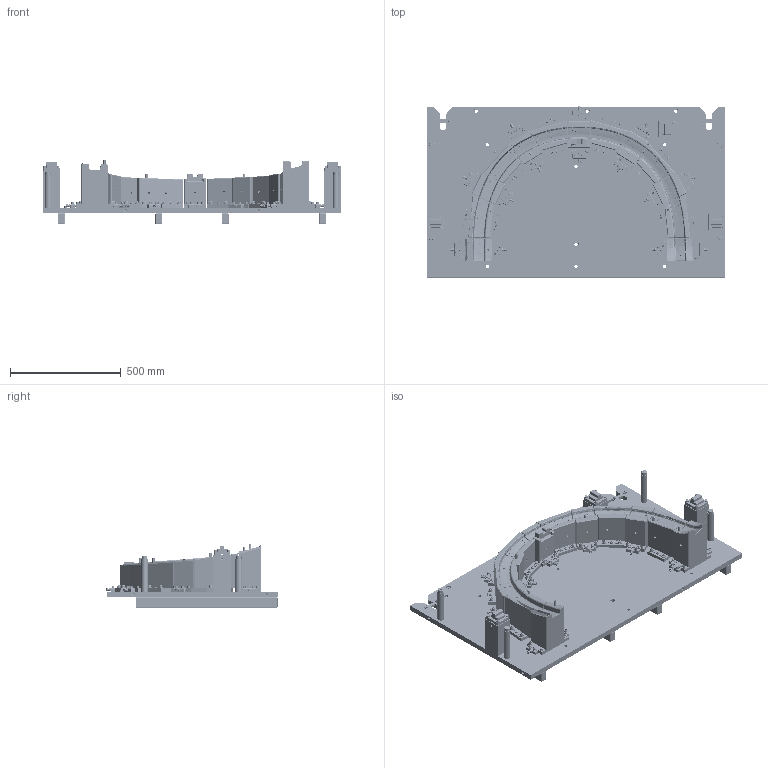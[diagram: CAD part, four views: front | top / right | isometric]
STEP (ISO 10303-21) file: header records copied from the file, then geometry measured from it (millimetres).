
FILE_DESCRIPTION(/* description */ (''),/* implementation_level */ '2;1');
FILE_NAME(/* name */ 'W:\COMMESSE PRODUZIONE\Prima Automotive\2020\comm20-166_posaggi-codolini-M182\CAM\MH\anteriore\20-166_est-ant-SX-20210128.stp',/* time_stamp */ '2021-01-29T08:23:35+01:00',/* author */ ('utente08'),/* organization */ ('Unknown'),/* preprocessor_version */ 'ST-DEVELOPER v18',/* originating_system */ 'Autodesk Manufacturing Data Exchange Utility2020.0.2.907102',/* authorisation */ '');
FILE_SCHEMA (('AUTOMOTIVE_DESIGN { 1 0 10303 214 3 1 1 }'));
Products named in the file (1): partANN::DOCUMENT
Bounding box: 1350 x 772.2 x 288 mm (x, y, z)
Volume: 38364058.4 mm3; surface area: 5624542.8 mm2
Topology: 469 solids, 493 shells, 9000 faces, 22674 edges, 15140 vertices
Faces by surface type: plane 3779, cylinder 2137, bspline 1943, cone 710, torus 245, sphere 186
Full cylindrical faces by diameter (mm): 2 x8, 4.13 x4, 4.2 x65, 5 x29, 6 x4, 6.64 x24, 6.8 x208, 8 x329, 8.5 x108, 9 x112, 9.5 x4, 10 x117, 10.106 x3, 10.2 x2, 10.5 x25, 13 x206, 14 x36, 15 x84, 18 x136, 20 x24, 22.02 x12, 25 x4, 30 x4
Entity records: 423035 total; most frequent: CARTESIAN_POINT 223324, ORIENTED_EDGE 44416, DIRECTION 36183, EDGE_CURVE 22306, VERTEX_POINT 15159, AXIS2_PLACEMENT_3D 13712, EDGE_LOOP 10821, FACE_OUTER_BOUND 8996
